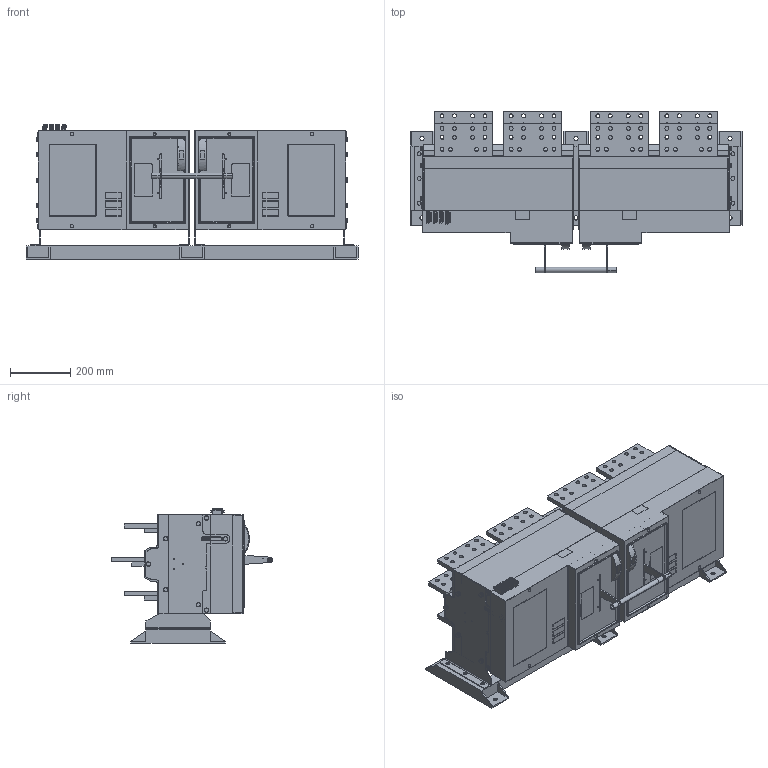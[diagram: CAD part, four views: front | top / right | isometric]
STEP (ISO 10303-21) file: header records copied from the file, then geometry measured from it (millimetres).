
FILE_DESCRIPTION (( 'STEP AP214' ), '1' );
FILE_NAME ('XKQE6000-4000A-4P.STEP', '2023-04-19T09:37:04', ( '' ), ( '' ), 'SwSTEP 2.0', 'SolidWorks 2020', '' );
FILE_SCHEMA (( 'AUTOMOTIVE_DESIGN' ));
Length unit declared in the file: millimetre
Products named in the file (15): ________.STEP.STEP; 8XKQE-003-100___.STEP.STEP; 8XKQE-050-124_3_1.STEP.STEP; 媼棒傷赽; 8XKQE-253-101_1_1.STEP.STEP; ____-0.STEP.STEP; 1_2_1.STEP.STEP; 8XKQE-253-102; ______ 2017.STEP.STEP; ____.STEP.STEP; XKQE6000-4000A-4P; 5XKQE-024-102_3_2.STEP.STEP; __________.STEP.STEP; M8-25鞠褒蹟邡; 8XKQE-253-103
Assembly tree (42 placements, depth 2):
  XKQE6000-4000A-4P
    ________.STEP.STEP  x3
    ____.STEP.STEP  x6
    1_2_1.STEP.STEP  x2
    __________.STEP.STEP  x2
    ______ 2017.STEP.STEP
    8XKQE-003-100___.STEP.STEP
    8XKQE-253-102  x4
    8XKQE-253-101_1_1.STEP.STEP  x2
    5XKQE-024-102_3_2.STEP.STEP  x2
    8XKQE-050-124_3_1.STEP.STEP
    ____-0.STEP.STEP
    M8-25鞠褒蹟邡  x14
    8XKQE-253-103  x2
    媼棒傷赽
Bounding box: 1106 x 537 x 447 mm (x, y, z)
Volume: 98558292.3 mm3; surface area: 5630045.2 mm2
Topology: 127 solids, 236 shells, 7337 faces, 19078 edges, 12473 vertices
Faces by surface type: plane 4388, cylinder 2074, cone 507, bspline 271, torus 77, sphere 20
Entity records: 262361 total; most frequent: CARTESIAN_POINT 56323, ORIENTED_EDGE 32260, DIRECTION 28928, EDGE_CURVE 16136, VECTOR 10832, LINE 10832, VERTEX_POINT 10568, AXIS2_PLACEMENT_3D 9048
